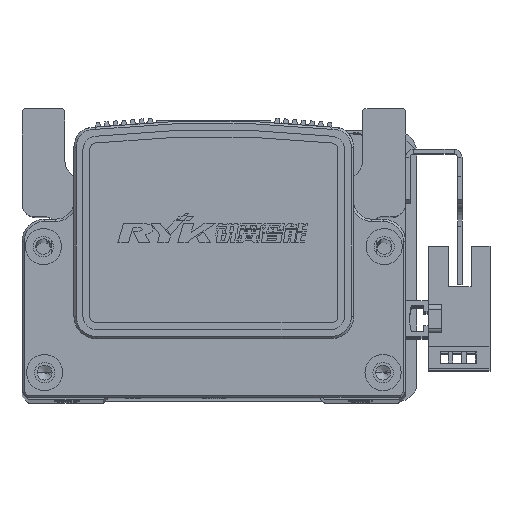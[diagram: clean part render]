
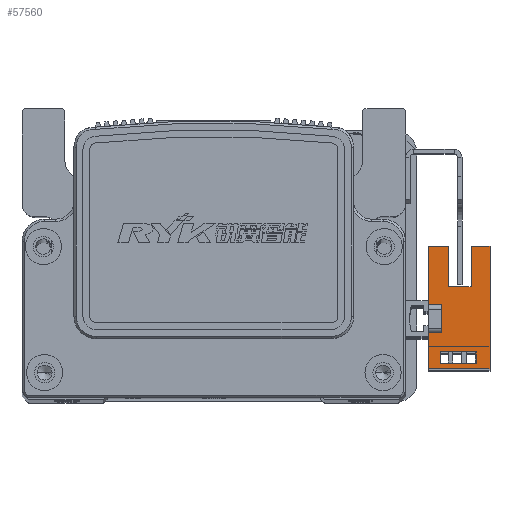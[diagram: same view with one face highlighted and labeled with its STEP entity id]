
A CAD part, top view. The second image highlights one B-rep face of the part: STEP entity #57560.
In plain terms, the highlighted planar face has unit normal (0, 0, 1) as drawn and (1, 0, 0) by its records, which use the part's own axes.
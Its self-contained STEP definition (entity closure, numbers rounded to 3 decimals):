
#8101 = LINE ( 'NONE', #46159, #8119 ) ;
#8109 = VECTOR ( 'NONE', #46166, 1000. ) ;
#8119 = VECTOR ( 'NONE', #46151, 1000. ) ;
#8124 = LINE ( 'NONE', #46143, #8109 ) ;
#8182 = VECTOR ( 'NONE', #46241, 1000. ) ;
#8185 = LINE ( 'NONE', #46273, #8186 ) ;
#8186 = VECTOR ( 'NONE', #46270, 1000. ) ;
#8193 = LINE ( 'NONE', #46295, #8224 ) ;
#8200 = LINE ( 'NONE', #46252, #8182 ) ;
#8201 = VECTOR ( 'NONE', #46239, 1000. ) ;
#8218 = LINE ( 'NONE', #46238, #8201 ) ;
#8224 = VECTOR ( 'NONE', #46286, 1000. ) ;
#8237 = LINE ( 'NONE', #46315, #8238 ) ;
#8238 = VECTOR ( 'NONE', #46319, 1000. ) ;
#8240 = VECTOR ( 'NONE', #46327, 1000. ) ;
#8264 = LINE ( 'NONE', #46302, #8240 ) ;
#8268 = LINE ( 'NONE', #46345, #8273 ) ;
#8270 = VECTOR ( 'NONE', #46341, 1000. ) ;
#8273 = VECTOR ( 'NONE', #46343, 1000. ) ;
#8278 = LINE ( 'NONE', #46376, #8270 ) ;
#8280 = LINE ( 'NONE', #46325, #8285 ) ;
#8285 = VECTOR ( 'NONE', #46336, 1000. ) ;
#8302 = LINE ( 'NONE', #15339, #8305 ) ;
#8305 = VECTOR ( 'NONE', #15359, 1000. ) ;
#8317 = VECTOR ( 'NONE', #10756, 1000. ) ;
#8351 = LINE ( 'NONE', #46123, #8317 ) ;
#8365 = LINE ( 'NONE', #15374, #8410 ) ;
#8371 = LINE ( 'NONE', #15444, #8420 ) ;
#8410 = VECTOR ( 'NONE', #15391, 1000. ) ;
#8420 = VECTOR ( 'NONE', #15429, 1000. ) ;
#8459 = LINE ( 'NONE', #15427, #8464 ) ;
#8464 = VECTOR ( 'NONE', #15489, 1000. ) ;
#10756 = DIRECTION ( 'NONE',  ( 0., 0., -1. ) ) ;
#15339 = CARTESIAN_POINT ( 'NONE',  ( 3.2, 16.1, 0.3 ) ) ;
#15359 = DIRECTION ( 'NONE',  ( 0., -1., 0. ) ) ;
#15374 = CARTESIAN_POINT ( 'NONE',  ( 3.2, -9.83, -10.7 ) ) ;
#15391 = DIRECTION ( 'NONE',  ( 0., 0., -1. ) ) ;
#15427 = CARTESIAN_POINT ( 'NONE',  ( 3.2, -7.33, -10.7 ) ) ;
#15429 = DIRECTION ( 'NONE',  ( 0., 1., 0. ) ) ;
#15444 = CARTESIAN_POINT ( 'NONE',  ( 3.2, 16.1, -7.7 ) ) ;
#15489 = DIRECTION ( 'NONE',  ( 0., 0., 1. ) ) ;
#16449 = CARTESIAN_POINT ( 'NONE',  ( 3.2, 3.1, 3. ) ) ;
#16461 = CARTESIAN_POINT ( 'NONE',  ( 3.2, 16.1, -10.7 ) ) ;
#16465 = CARTESIAN_POINT ( 'NONE',  ( 3.2, -11.1, 3. ) ) ;
#16497 = CARTESIAN_POINT ( 'NONE',  ( 3.2, -9.83, 0.3 ) ) ;
#16509 = CARTESIAN_POINT ( 'NONE',  ( 3.2, 7.1, -1.5 ) ) ;
#16516 = CARTESIAN_POINT ( 'NONE',  ( 3.2, 7.1, -6.5 ) ) ;
#16525 = CARTESIAN_POINT ( 'NONE',  ( 3.2, 16.1, 3. ) ) ;
#16529 = CARTESIAN_POINT ( 'NONE',  ( 3.2, -7.33, -7.7 ) ) ;
#16531 = CARTESIAN_POINT ( 'NONE',  ( 3.2, -3.1, 3. ) ) ;
#16533 = CARTESIAN_POINT ( 'NONE',  ( 3.2, 16.1, -6.5 ) ) ;
#16540 = CARTESIAN_POINT ( 'NONE',  ( 3.2, -7.33, 0.3 ) ) ;
#16542 = CARTESIAN_POINT ( 'NONE',  ( 3.2, -11.1, -10.7 ) ) ;
#16547 = CARTESIAN_POINT ( 'NONE',  ( 3.2, 16.1, -1.5 ) ) ;
#16567 = CARTESIAN_POINT ( 'NONE',  ( 3.2, 3.1, 0. ) ) ;
#16571 = CARTESIAN_POINT ( 'NONE',  ( 3.2, -3.1, 0. ) ) ;
#16578 = CARTESIAN_POINT ( 'NONE',  ( 3.2, -9.83, -7.7 ) ) ;
#18990 = ORIENTED_EDGE ( 'NONE', *, *, #48410, .F. ) ;
#19005 = ORIENTED_EDGE ( 'NONE', *, *, #48139, .T. ) ;
#19024 = ORIENTED_EDGE ( 'NONE', *, *, #48272, .T. ) ;
#19043 = ORIENTED_EDGE ( 'NONE', *, *, #48129, .F. ) ;
#19045 = ORIENTED_EDGE ( 'NONE', *, *, #48176, .F. ) ;
#19048 = ORIENTED_EDGE ( 'NONE', *, *, #48064, .F. ) ;
#19052 = ORIENTED_EDGE ( 'NONE', *, *, #48417, .F. ) ;
#19054 = ORIENTED_EDGE ( 'NONE', *, *, #48227, .T. ) ;
#19061 = ORIENTED_EDGE ( 'NONE', *, *, #48057, .T. ) ;
#19066 = ORIENTED_EDGE ( 'NONE', *, *, #48300, .F. ) ;
#19067 = ORIENTED_EDGE ( 'NONE', *, *, #48234, .F. ) ;
#19068 = ORIENTED_EDGE ( 'NONE', *, *, #48346, .F. ) ;
#19071 = ORIENTED_EDGE ( 'NONE', *, *, #48258, .F. ) ;
#19075 = ORIENTED_EDGE ( 'NONE', *, *, #48195, .T. ) ;
#19090 = ORIENTED_EDGE ( 'NONE', *, *, #48274, .T. ) ;
#19093 = ORIENTED_EDGE ( 'NONE', *, *, #48465, .F. ) ;
#23613 = VERTEX_POINT ( 'NONE', #16465 ) ;
#23620 = VERTEX_POINT ( 'NONE', #16461 ) ;
#23626 = VERTEX_POINT ( 'NONE', #16449 ) ;
#23662 = VERTEX_POINT ( 'NONE', #16533 ) ;
#23666 = VERTEX_POINT ( 'NONE', #16525 ) ;
#23677 = VERTEX_POINT ( 'NONE', #16531 ) ;
#23681 = VERTEX_POINT ( 'NONE', #16547 ) ;
#23689 = VERTEX_POINT ( 'NONE', #16540 ) ;
#23693 = VERTEX_POINT ( 'NONE', #16542 ) ;
#23694 = VERTEX_POINT ( 'NONE', #16516 ) ;
#23697 = VERTEX_POINT ( 'NONE', #16497 ) ;
#23712 = VERTEX_POINT ( 'NONE', #16509 ) ;
#23716 = VERTEX_POINT ( 'NONE', #16529 ) ;
#23745 = VERTEX_POINT ( 'NONE', #16571 ) ;
#23746 = VERTEX_POINT ( 'NONE', #16567 ) ;
#23764 = VERTEX_POINT ( 'NONE', #16578 ) ;
#37685 = CARTESIAN_POINT ( 'NONE',  ( 3.2, 16.1, -10.7 ) ) ;
#37687 = PLANE ( 'NONE',  #49304 ) ;
#37702 = DIRECTION ( 'NONE',  ( 1., 0., 0. ) ) ;
#37729 = DIRECTION ( 'NONE',  ( 0., 1., 0. ) ) ;
#41921 = EDGE_LOOP ( 'NONE', ( #19068, #19093, #19052, #18990 ) ) ;
#41977 = EDGE_LOOP ( 'NONE', ( #19054, #19024, #19090, #19005, #19043, #19071, #19067, #19066, #19045, #19048, #19061, #19075 ) ) ;
#46123 = CARTESIAN_POINT ( 'NONE',  ( 3.2, -3.1, 3. ) ) ;
#46143 = CARTESIAN_POINT ( 'NONE',  ( 3.2, -11.1, 3. ) ) ;
#46151 = DIRECTION ( 'NONE',  ( 0., 1., 0. ) ) ;
#46159 = CARTESIAN_POINT ( 'NONE',  ( 3.2, 16.1, -10.7 ) ) ;
#46166 = DIRECTION ( 'NONE',  ( 0., 0., 1. ) ) ;
#46238 = CARTESIAN_POINT ( 'NONE',  ( 3.2, 16.1, 3. ) ) ;
#46239 = DIRECTION ( 'NONE',  ( 0., 1., 0. ) ) ;
#46241 = DIRECTION ( 'NONE',  ( 0., 0., 1. ) ) ;
#46252 = CARTESIAN_POINT ( 'NONE',  ( 3.2, 16.1, -10.7 ) ) ;
#46270 = DIRECTION ( 'NONE',  ( 0., 0., 1. ) ) ;
#46273 = CARTESIAN_POINT ( 'NONE',  ( 3.2, 16.1, -10.7 ) ) ;
#46286 = DIRECTION ( 'NONE',  ( 0., 1., 0. ) ) ;
#46295 = CARTESIAN_POINT ( 'NONE',  ( 3.2, 16.1, 3. ) ) ;
#46302 = CARTESIAN_POINT ( 'NONE',  ( 3.2, 0., 0. ) ) ;
#46315 = CARTESIAN_POINT ( 'NONE',  ( 3.2, 3.1, 3. ) ) ;
#46319 = DIRECTION ( 'NONE',  ( 0., 0., 1. ) ) ;
#46325 = CARTESIAN_POINT ( 'NONE',  ( 3.2, 25.1, -6.5 ) ) ;
#46327 = DIRECTION ( 'NONE',  ( 0., 1., 0. ) ) ;
#46336 = DIRECTION ( 'NONE',  ( 0., -1., 0. ) ) ;
#46341 = DIRECTION ( 'NONE',  ( 0., 0., 1. ) ) ;
#46343 = DIRECTION ( 'NONE',  ( 0., 1., 0. ) ) ;
#46345 = CARTESIAN_POINT ( 'NONE',  ( 3.2, 25.1, -1.5 ) ) ;
#46376 = CARTESIAN_POINT ( 'NONE',  ( 3.2, 7.1, -6.5 ) ) ;
#48057 = EDGE_CURVE ( 'NONE', #23693, #23620, #8101, .T. ) ;
#48064 = EDGE_CURVE ( 'NONE', #23693, #23613, #8124, .T. ) ;
#48129 = EDGE_CURVE ( 'NONE', #23626, #23666, #8218, .T. ) ;
#48139 = EDGE_CURVE ( 'NONE', #23681, #23666, #8200, .T. ) ;
#48176 = EDGE_CURVE ( 'NONE', #23613, #23677, #8193, .T. ) ;
#48195 = EDGE_CURVE ( 'NONE', #23620, #23662, #8185, .T. ) ;
#48227 = EDGE_CURVE ( 'NONE', #23662, #23694, #8280, .T. ) ;
#48234 = EDGE_CURVE ( 'NONE', #23745, #23746, #8264, .T. ) ;
#48258 = EDGE_CURVE ( 'NONE', #23746, #23626, #8237, .T. ) ;
#48272 = EDGE_CURVE ( 'NONE', #23694, #23712, #8278, .T. ) ;
#48274 = EDGE_CURVE ( 'NONE', #23712, #23681, #8268, .T. ) ;
#48300 = EDGE_CURVE ( 'NONE', #23677, #23745, #8351, .T. ) ;
#48346 = EDGE_CURVE ( 'NONE', #23689, #23697, #8302, .T. ) ;
#48410 = EDGE_CURVE ( 'NONE', #23697, #23764, #8365, .T. ) ;
#48417 = EDGE_CURVE ( 'NONE', #23764, #23716, #8371, .T. ) ;
#48465 = EDGE_CURVE ( 'NONE', #23716, #23689, #8459, .T. ) ;
#49304 = AXIS2_PLACEMENT_3D ( 'NONE', #37685, #37702, #37729 ) ;
#57560 = ADVANCED_FACE ( 'NONE', ( #59867, #59884 ), #37687, .T. ) ;
#59867 = FACE_OUTER_BOUND ( 'NONE', #41977, .T. ) ;
#59884 = FACE_BOUND ( 'NONE', #41921, .T. ) ;
